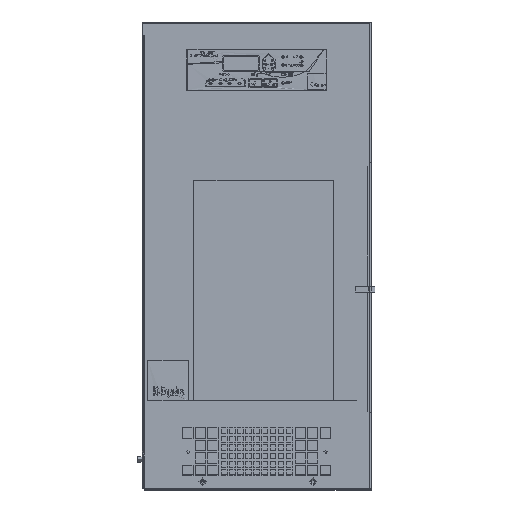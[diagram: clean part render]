
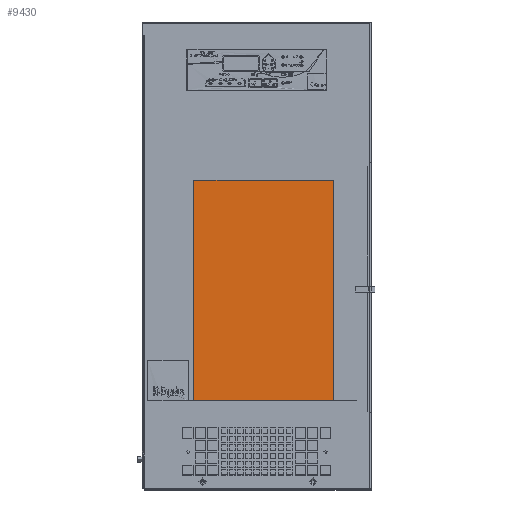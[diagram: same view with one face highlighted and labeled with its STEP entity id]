
A CAD part, top view. The second image highlights one B-rep face of the part: STEP entity #9430.
In plain terms, the highlighted planar face has unit normal (0, 0, -1).
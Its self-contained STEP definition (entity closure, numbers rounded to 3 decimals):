
#2350 = VERTEX_POINT ( 'NONE', #41296 ) ;
#6000 = EDGE_CURVE ( 'NONE', #13439, #28565, #81508, .T. ) ;
#7458 = CARTESIAN_POINT ( 'NONE',  ( 0., 8.563, 10.875 ) ) ;
#9430 = ADVANCED_FACE ( 'NONE', ( #58140 ), #18009, .T. ) ;
#9470 = EDGE_CURVE ( 'NONE', #44434, #97158, #92104, .T. ) ;
#10913 = CARTESIAN_POINT ( 'NONE',  ( 4.15, 8.688, 10.875 ) ) ;
#11415 = DIRECTION ( 'NONE',  ( -1., 0., 0. ) ) ;
#11629 = CARTESIAN_POINT ( 'NONE',  ( 4.15, 8.438, 10.875 ) ) ;
#13287 = LINE ( 'NONE', #56701, #41949 ) ;
#13439 = VERTEX_POINT ( 'NONE', #50696 ) ;
#14553 = ORIENTED_EDGE ( 'NONE', *, *, #6000, .T. ) ;
#15486 = ORIENTED_EDGE ( 'NONE', *, *, #22641, .T. ) ;
#15504 = VECTOR ( 'NONE', #36232, 39.37 ) ;
#15811 = DIRECTION ( 'NONE',  ( 0., 1., 0. ) ) ;
#16623 = VECTOR ( 'NONE', #61659, 39.37 ) ;
#18009 = PLANE ( 'NONE',  #30539 ) ;
#18997 = LINE ( 'NONE', #24194, #15504 ) ;
#19744 = EDGE_CURVE ( 'NONE', #37546, #73803, #13287, .T. ) ;
#19919 = VECTOR ( 'NONE', #95769, 39.37 ) ;
#21463 = EDGE_CURVE ( 'NONE', #28565, #37546, #65209, .T. ) ;
#22641 = EDGE_CURVE ( 'NONE', #2350, #13439, #96180, .T. ) ;
#24194 = CARTESIAN_POINT ( 'NONE',  ( 4.25, 8.563, 10.875 ) ) ;
#25049 = CARTESIAN_POINT ( 'NONE',  ( 0., 13.375, 10.875 ) ) ;
#27625 = VECTOR ( 'NONE', #31783, 39.37 ) ;
#28565 = VERTEX_POINT ( 'NONE', #10913 ) ;
#30539 = AXIS2_PLACEMENT_3D ( 'NONE', #7458, #94304, #101019 ) ;
#31783 = DIRECTION ( 'NONE',  ( 0., -1., 0. ) ) ;
#36232 = DIRECTION ( 'NONE',  ( 0., -1., 0. ) ) ;
#37546 = VERTEX_POINT ( 'NONE', #11629 ) ;
#37649 = VECTOR ( 'NONE', #11415, 39.37 ) ;
#38325 = DIRECTION ( 'NONE',  ( 1., 0., 0. ) ) ;
#39888 = EDGE_CURVE ( 'NONE', #54772, #44434, #60159, .T. ) ;
#41296 = CARTESIAN_POINT ( 'NONE',  ( 4.25, 13.375, 10.875 ) ) ;
#41949 = VECTOR ( 'NONE', #38325, 39.37 ) ;
#44434 = VERTEX_POINT ( 'NONE', #90544 ) ;
#45827 = CARTESIAN_POINT ( 'NONE',  ( -4.25, 13.375, 10.875 ) ) ;
#50696 = CARTESIAN_POINT ( 'NONE',  ( 4.25, 8.688, 10.875 ) ) ;
#53358 = VECTOR ( 'NONE', #76819, 39.37 ) ;
#53859 = CARTESIAN_POINT ( 'NONE',  ( 4.25, 8.563, 10.875 ) ) ;
#54724 = EDGE_CURVE ( 'NONE', #97158, #2350, #108595, .T. ) ;
#54772 = VERTEX_POINT ( 'NONE', #68996 ) ;
#54939 = CARTESIAN_POINT ( 'NONE',  ( 4.25, 8.438, 10.875 ) ) ;
#56523 = ORIENTED_EDGE ( 'NONE', *, *, #9470, .T. ) ;
#56701 = CARTESIAN_POINT ( 'NONE',  ( 0., 8.438, 10.875 ) ) ;
#56881 = CARTESIAN_POINT ( 'NONE',  ( 4.15, 8.563, 10.875 ) ) ;
#58140 = FACE_OUTER_BOUND ( 'NONE', #87896, .T. ) ;
#60159 = LINE ( 'NONE', #68503, #19919 ) ;
#61659 = DIRECTION ( 'NONE',  ( 0., -1., 0. ) ) ;
#62077 = CARTESIAN_POINT ( 'NONE',  ( 0., 8.688, 10.875 ) ) ;
#63017 = ORIENTED_EDGE ( 'NONE', *, *, #19744, .T. ) ;
#65209 = LINE ( 'NONE', #56881, #27625 ) ;
#65356 = ORIENTED_EDGE ( 'NONE', *, *, #21463, .T. ) ;
#68503 = CARTESIAN_POINT ( 'NONE',  ( 0., 3.75, 10.875 ) ) ;
#68996 = CARTESIAN_POINT ( 'NONE',  ( 4.25, 3.75, 10.875 ) ) ;
#73803 = VERTEX_POINT ( 'NONE', #54939 ) ;
#76819 = DIRECTION ( 'NONE',  ( 1., 0., 0. ) ) ;
#79895 = ORIENTED_EDGE ( 'NONE', *, *, #54724, .T. ) ;
#81508 = LINE ( 'NONE', #62077, #37649 ) ;
#85942 = CARTESIAN_POINT ( 'NONE',  ( -4.25, 8.563, 10.875 ) ) ;
#87896 = EDGE_LOOP ( 'NONE', ( #63017, #89575, #92056, #56523, #79895, #15486, #14553, #65356 ) ) ;
#89575 = ORIENTED_EDGE ( 'NONE', *, *, #98314, .T. ) ;
#90544 = CARTESIAN_POINT ( 'NONE',  ( -4.25, 3.75, 10.875 ) ) ;
#92056 = ORIENTED_EDGE ( 'NONE', *, *, #39888, .T. ) ;
#92104 = LINE ( 'NONE', #85942, #98129 ) ;
#94304 = DIRECTION ( 'NONE',  ( 0., 0., -1. ) ) ;
#95769 = DIRECTION ( 'NONE',  ( -1., 0., 0. ) ) ;
#96180 = LINE ( 'NONE', #53859, #16623 ) ;
#97158 = VERTEX_POINT ( 'NONE', #45827 ) ;
#98129 = VECTOR ( 'NONE', #15811, 39.37 ) ;
#98314 = EDGE_CURVE ( 'NONE', #73803, #54772, #18997, .T. ) ;
#101019 = DIRECTION ( 'NONE',  ( 0., 1., 0. ) ) ;
#108595 = LINE ( 'NONE', #25049, #53358 ) ;
